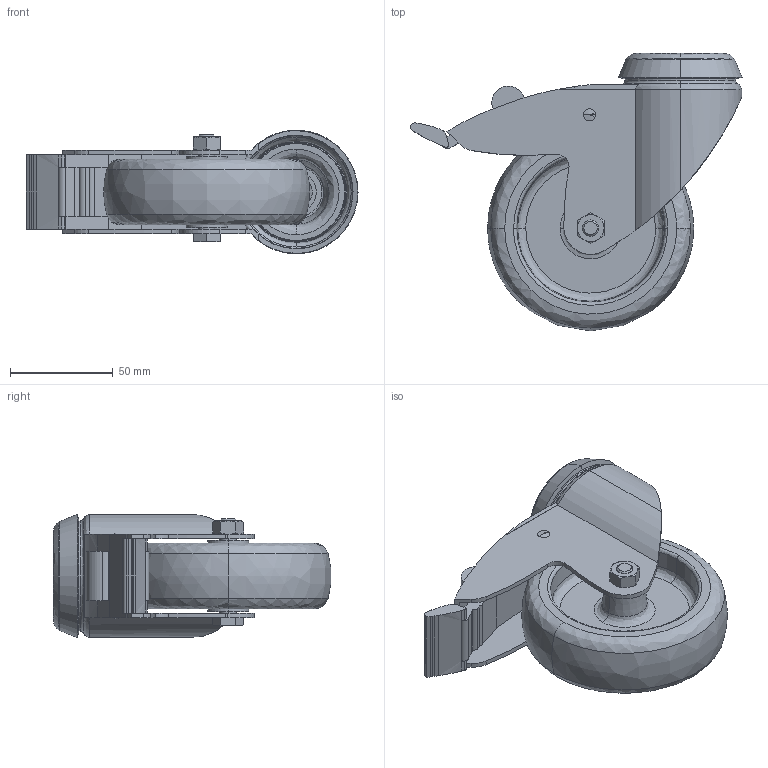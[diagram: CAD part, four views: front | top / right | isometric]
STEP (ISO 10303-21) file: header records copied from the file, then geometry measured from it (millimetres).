
FILE_DESCRIPTION (( 'STEP AP203' ), '1' );
FILE_NAME ('502125_Lenkrolle Ø100 mit Rückenloch Ø13 kpl. feststellbar.step', '2022-07-29T06:27:38', ( '' ), ( '' ), 'SwSTEP 2.0', 'SolidWorks 2021', '' );
FILE_SCHEMA (( 'CONFIG_CONTROL_DESIGN' ));
Length unit declared in the file: millimetre
Products named in the file (1): 502125_Lenkrolle Ø100 mit Rückenloch Ø13 kpl. feststellbar
Bounding box: 161.22 x 134.83 x 60 mm (x, y, z)
Volume: 237929.7 mm3; surface area: 88536.8 mm2
Topology: 2 solids, 2 shells, 258 faces, 657 edges, 414 vertices
Faces by surface type: plane 79, cylinder 77, bspline 56, cone 46
Entity records: 11099 total; most frequent: CARTESIAN_POINT 4956, ORIENTED_EDGE 1306, DIRECTION 1256, EDGE_CURVE 653, AXIS2_PLACEMENT_3D 500, VERTEX_POINT 414, CIRCLE 297, EDGE_LOOP 285
